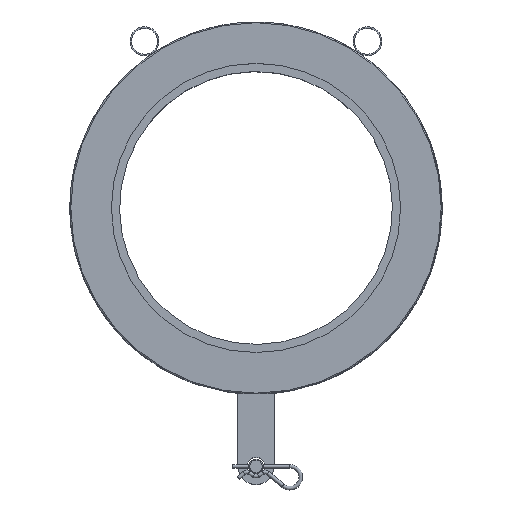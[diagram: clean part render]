
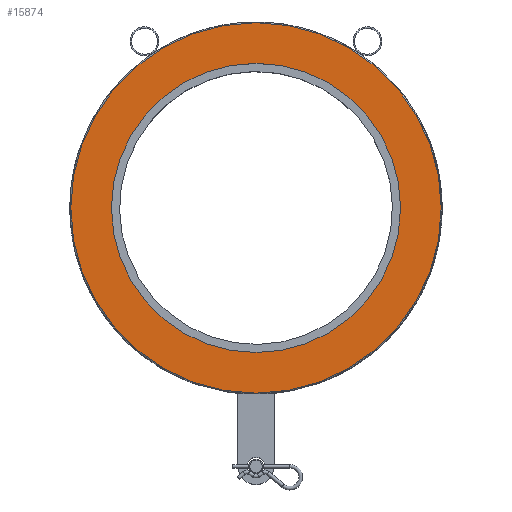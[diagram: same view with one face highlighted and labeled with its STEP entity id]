
A CAD part, top view. The second image highlights one B-rep face of the part: STEP entity #15874.
In plain terms, the highlighted planar face has unit normal (0, 0, 1).
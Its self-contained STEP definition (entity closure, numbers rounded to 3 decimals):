
#531=FACE_BOUND('',#3550,.T.);
#1737=PLANE('',#16721);
#2598=FACE_OUTER_BOUND('',#3549,.T.);
#3549=EDGE_LOOP('',(#14683));
#3550=EDGE_LOOP('',(#14684));
#6130=CIRCLE('',#16717,160.);
#6131=CIRCLE('',#16719,205.);
#7693=VERTEX_POINT('',#38293);
#7694=VERTEX_POINT('',#38297);
#10032=EDGE_CURVE('',#7693,#7693,#6130,.T.);
#10034=EDGE_CURVE('',#7694,#7694,#6131,.T.);
#14683=ORIENTED_EDGE('',*,*,#10034,.F.);
#14684=ORIENTED_EDGE('',*,*,#10032,.T.);
#15874=ADVANCED_FACE('',(#2598,#531),#1737,.T.);
#16717=AXIS2_PLACEMENT_3D('',#38294,#19415,#19416);
#16719=AXIS2_PLACEMENT_3D('',#38298,#19420,#19421);
#16721=AXIS2_PLACEMENT_3D('',#38301,#19425,#19426);
#19415=DIRECTION('center_axis',(0.,0.,
-1.));
#19416=DIRECTION('ref_axis',(-1.,0.,0.));
#19420=DIRECTION('center_axis',(0.,0.,
-1.));
#19421=DIRECTION('ref_axis',(-1.,0.,0.));
#19425=DIRECTION('center_axis',(0.,0.,
1.));
#19426=DIRECTION('ref_axis',(-1.,0.,0.));
#38293=CARTESIAN_POINT('',(160.,0.,112.));
#38294=CARTESIAN_POINT('Origin',(0.,0.,
112.));
#38297=CARTESIAN_POINT('',(205.,0.,112.));
#38298=CARTESIAN_POINT('Origin',(0.,0.,
112.));
#38301=CARTESIAN_POINT('Origin',(0.,0.,
112.));
